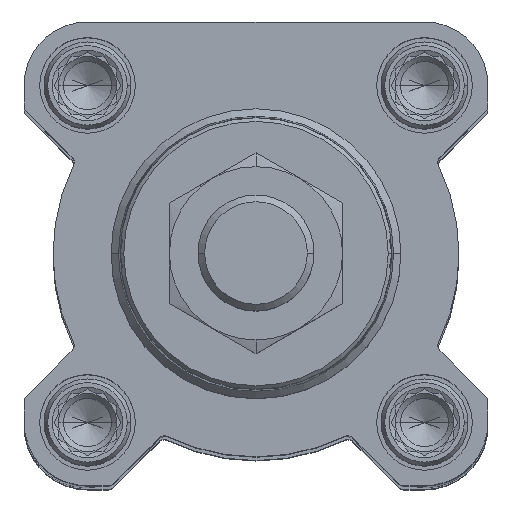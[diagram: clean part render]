
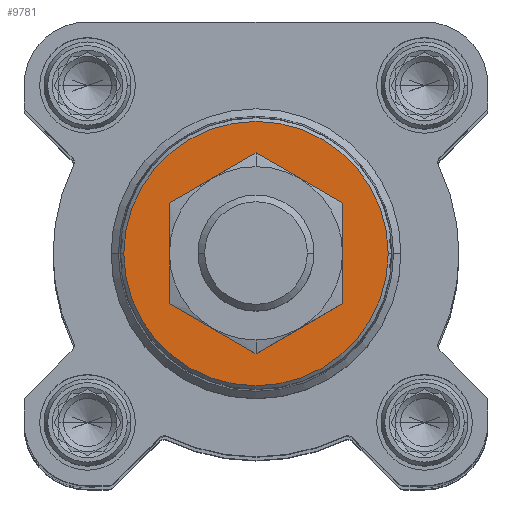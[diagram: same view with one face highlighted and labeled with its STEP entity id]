
A CAD part, top view. The second image highlights one B-rep face of the part: STEP entity #9781.
In plain terms, the highlighted planar face has unit normal (0, 0, 1).
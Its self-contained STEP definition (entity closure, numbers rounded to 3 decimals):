
#1261 = DIRECTION ( 'NONE',  ( -1., 0., 0. ) ) ;
#1865 = AXIS2_PLACEMENT_3D ( 'NONE', #16661, #15226, #16767 ) ;
#2161 = PLANE ( 'NONE',  #4326 ) ;
#2372 = CARTESIAN_POINT ( 'NONE',  ( 0., 0., 26.8 ) ) ;
#2996 = DIRECTION ( 'NONE',  ( 0., 0., -1. ) ) ;
#3595 = DIRECTION ( 'NONE',  ( 0., 0., -1. ) ) ;
#3696 = DIRECTION ( 'NONE',  ( -1., 0., 0. ) ) ;
#3852 = AXIS2_PLACEMENT_3D ( 'NONE', #2372, #14805, #1261 ) ;
#4024 = DIRECTION ( 'NONE',  ( -1., 0., 0. ) ) ;
#4326 = AXIS2_PLACEMENT_3D ( 'NONE', #8431, #6900, #8628 ) ;
#4661 = VERTEX_POINT ( 'NONE', #13926 ) ;
#4688 = EDGE_LOOP ( 'NONE', ( #13275, #11431 ) ) ;
#4992 = VERTEX_POINT ( 'NONE', #15618 ) ;
#5117 = CARTESIAN_POINT ( 'NONE',  ( 0., 0., 26.8 ) ) ;
#6347 = VERTEX_POINT ( 'NONE', #19576 ) ;
#6900 = DIRECTION ( 'NONE',  ( 0., 0., -1. ) ) ;
#7106 = FACE_BOUND ( 'NONE', #4688, .T. ) ;
#7899 = CARTESIAN_POINT ( 'NONE',  ( 10., 0., 26.8 ) ) ;
#7963 = AXIS2_PLACEMENT_3D ( 'NONE', #18737, #2996, #4024 ) ;
#8431 = CARTESIAN_POINT ( 'NONE',  ( 0., 0., 26.8 ) ) ;
#8628 = DIRECTION ( 'NONE',  ( 0., -1., 0. ) ) ;
#8924 = ORIENTED_EDGE ( 'NONE', *, *, #11765, .F. ) ;
#9528 = EDGE_CURVE ( 'NONE', #6347, #16352, #14153, .T. ) ;
#9781 = ADVANCED_FACE ( 'NONE', ( #11666, #7106 ), #2161, .F. ) ;
#9994 = CIRCLE ( 'NONE', #3852, 18.242 ) ;
#10577 = CIRCLE ( 'NONE', #10894, 10. ) ;
#10894 = AXIS2_PLACEMENT_3D ( 'NONE', #5117, #3595, #3696 ) ;
#11431 = ORIENTED_EDGE ( 'NONE', *, *, #15255, .T. ) ;
#11497 = CIRCLE ( 'NONE', #7963, 18.242 ) ;
#11666 = FACE_OUTER_BOUND ( 'NONE', #15567, .T. ) ;
#11765 = EDGE_CURVE ( 'NONE', #4992, #4661, #11497, .T. ) ;
#13275 = ORIENTED_EDGE ( 'NONE', *, *, #9528, .T. ) ;
#13926 = CARTESIAN_POINT ( 'NONE',  ( 18.242, 0., 26.8 ) ) ;
#14153 = CIRCLE ( 'NONE', #1865, 10. ) ;
#14805 = DIRECTION ( 'NONE',  ( 0., 0., -1. ) ) ;
#15226 = DIRECTION ( 'NONE',  ( 0., 0., -1. ) ) ;
#15255 = EDGE_CURVE ( 'NONE', #16352, #6347, #10577, .T. ) ;
#15567 = EDGE_LOOP ( 'NONE', ( #8924, #15801 ) ) ;
#15618 = CARTESIAN_POINT ( 'NONE',  ( -18.242, 0., 26.8 ) ) ;
#15801 = ORIENTED_EDGE ( 'NONE', *, *, #18929, .F. ) ;
#16352 = VERTEX_POINT ( 'NONE', #7899 ) ;
#16661 = CARTESIAN_POINT ( 'NONE',  ( 0., 0., 26.8 ) ) ;
#16767 = DIRECTION ( 'NONE',  ( -1., 0., 0. ) ) ;
#18737 = CARTESIAN_POINT ( 'NONE',  ( 0., 0., 26.8 ) ) ;
#18929 = EDGE_CURVE ( 'NONE', #4661, #4992, #9994, .T. ) ;
#19576 = CARTESIAN_POINT ( 'NONE',  ( -10., 0., 26.8 ) ) ;
